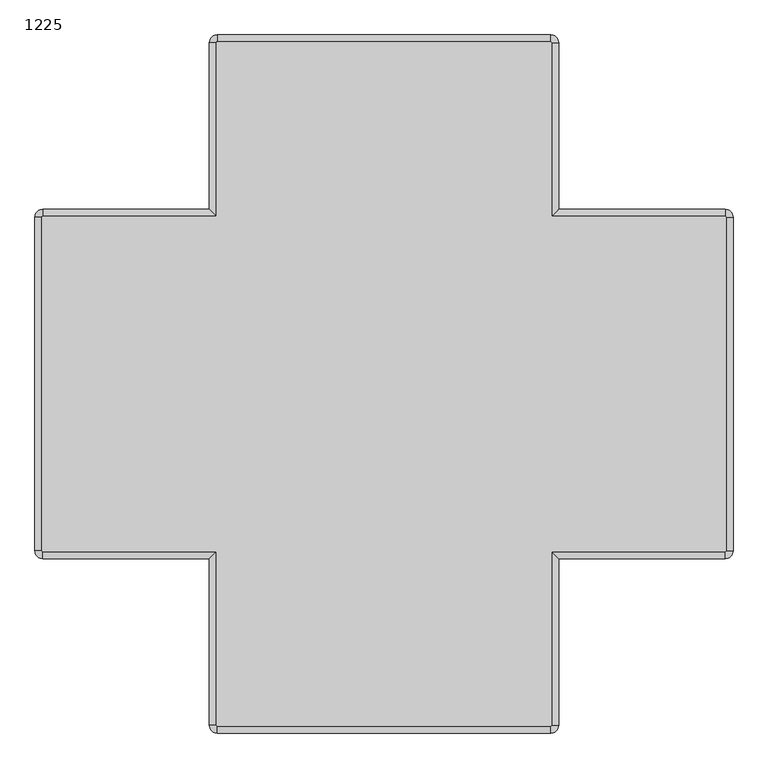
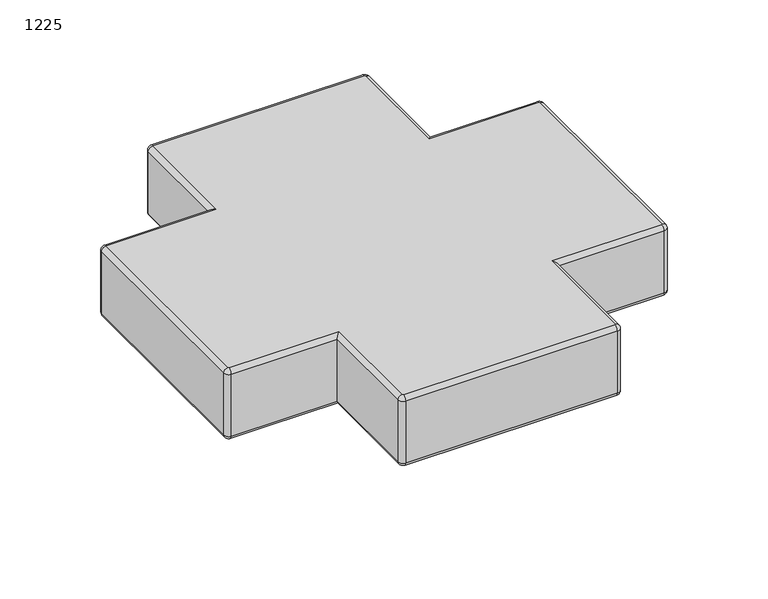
"""IFC4 building model written with IfcOpenShell, lengths in millimetres: furniture geometry, Laguna-Quattro_Backless-ERG : 1225."""

from ifc_helpers import new_model, si_unit, point, frame, origin, place, context, project, spatial, circle_curve, ellipse_curve, trimmed, source, transform, mapped, element, save
from ifc_brep_helpers import plane_surface, cylinder_surface, revolved_surface, advanced_brep


def furniture_1225_f7da2884(model_context):
    return source(origin(), model_context, "Body", "AdvancedBrep", [
        advanced_brep(
        [(-3891.49153, 1409.9151303, 220.9396081), (-3854.2241064, 1409.9151303, 228.8610435), (-3807.7377645, 1409.9151303, 10.16), (-3846.6889412, 1409.9151303, 10.16)],
        [
            (0, 1, circle_curve(frame((-3872.8578182, 1409.9151303, 224.9003258), z_axis=(-0.2079116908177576, 0.0, 0.9781476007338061), x_axis=(0.9781476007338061, 0.0, 0.2079116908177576)), 19.05)),
            (1, 0, circle_curve(frame((-3872.8578182, 1409.9151303, 224.9003258), z_axis=(-0.2079116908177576, 0.0, 0.9781476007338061), x_axis=(0.9781476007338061, 0.0, 0.2079116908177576)), 19.05)),
            (1, 2),
            (2, 3, ellipse_curve(frame((-3827.2133529, 1409.9151303, 10.16), z_axis=(0.0, 0.0, 1.0), x_axis=(0.9999999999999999, 0.0, 0.0)), 19.4755883, 19.05)),
            (3, 0),
            (3, 2, ellipse_curve(frame((-3827.2133529, 1409.9151303, 10.16), z_axis=(0.0, 0.0, 1.0), x_axis=(0.9999999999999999, 0.0, 0.0)), 19.4755883, 19.05)),
        ],
        [
            plane_surface(frame((-3872.8578182, 1409.9151303, 224.9003258), z_axis=(-0.2079116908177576, 0.0, 0.9781476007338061), x_axis=(0.0, 1.0, 0.0))),
            cylinder_surface(frame((-3818.7280095, 1409.9151303, -29.760402), z_axis=(0.2079116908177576, 0.0, -0.9781476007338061), x_axis=(0.9781476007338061, 0.0, 0.2079116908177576)), 19.05),
            plane_surface(frame((-4962.2879997, 1591.847031, 10.16), z_axis=(0.0, 0.0, -1.0), x_axis=(-1.0, 0.0, 0.0))),
        ],
        [
            (0, [[1, 2]]),
            (1, [[-2, 3, 4, 5]]),
            (1, [[-1, -5, 6, -3]]),
            (2, [[-4, -6]]),
        ],
    ),
        advanced_brep(
        [(-3804.2053779, 1445.4751303, 419.1), (-3819.4453779, 1460.7151303, 419.1), (-3819.4453779, 1448.0151303, 431.8), (-3816.9053779, 1445.4751303, 431.8), (-3804.2053779, 1445.4751303, 215.9), (-3819.4453779, 1460.7151303, 215.9), (-3816.9053779, 1445.4751303, 203.2), (-3819.4453779, 1448.0151303, 203.2), (-3816.9053779, 1105.1151303, 431.8), (-3804.2053779, 1117.8151303, 419.1), (-3804.2053779, 1117.8151303, 215.9), (-3816.9053779, 1105.1151303, 203.2), (-3476.5453779, 1105.1151303, 431.8), (-3476.5453779, 1117.8151303, 419.1), (-3476.5453779, 1117.8151303, 215.9), (-3476.5453779, 1105.1151303, 203.2), (-3474.0053779, 1102.5751303, 431.8), (-3461.3053779, 1102.5751303, 419.1), (-3461.3053779, 1102.5751303, 215.9), (-3474.0053779, 1102.5751303, 203.2), (-3474.0053779, 447.2551303, 431.8), (-3461.3053779, 447.2551303, 419.1), (-3461.3053779, 447.2551303, 215.9), (-3474.0053779, 447.2551303, 203.2), (-3476.5453779, 444.7151303, 431.8), (-3476.5453779, 432.0151303, 419.1), (-3476.5453779, 432.0151303, 215.9), (-3476.5453779, 444.7151303, 203.2), (-3816.9053779, 444.7151303, 431.8), (-3804.2053779, 432.0151303, 419.1), (-3804.2053779, 432.0151303, 215.9), (-3816.9053779, 444.7151303, 203.2), (-3816.9053779, 104.3551303, 431.8), (-3804.2053779, 104.3551303, 419.1), (-3804.2053779, 104.3551303, 215.9), (-3816.9053779, 104.3551303, 203.2), (-3819.4453779, 101.8151303, 431.8), (-3819.4453779, 89.1151303, 419.1), (-3819.4453779, 89.1151303, 215.9), (-3819.4453779, 101.8151303, 203.2), (-4474.7653779, 101.8151303, 431.8), (-4474.7653779, 89.1151303, 419.1), (-4474.7653779, 89.1151303, 215.9), (-4474.7653779, 101.8151303, 203.2), (-4477.3053779, 104.3551303, 431.8), (-4490.0053779, 104.3551303, 419.1), (-4490.0053779, 104.3551303, 215.9), (-4477.3053779, 104.3551303, 203.2), (-4477.3053779, 444.7151303, 431.8), (-4490.0053779, 432.0151303, 419.1), (-4490.0053779, 432.0151303, 215.9), (-4477.3053779, 444.7151303, 203.2), (-4817.6653779, 444.7151303, 431.8), (-4817.6653779, 432.0151303, 419.1), (-4817.6653779, 432.0151303, 215.9), (-4817.6653779, 444.7151303, 203.2), (-4820.2053779, 447.2551303, 431.8), (-4832.9053779, 447.2551303, 419.1), (-4832.9053779, 447.2551303, 215.9), (-4820.2053779, 447.2551303, 203.2), (-4820.2053779, 1102.5751303, 431.8), (-4832.9053779, 1102.5751303, 419.1), (-4832.9053779, 1102.5751303, 215.9), (-4820.2053779, 1102.5751303, 203.2), (-4817.6653779, 1105.1151303, 431.8), (-4817.6653779, 1117.8151303, 419.1), (-4817.6653779, 1117.8151303, 215.9), (-4817.6653779, 1105.1151303, 203.2), (-4477.3053779, 1105.1151303, 431.8), (-4490.0053779, 1117.8151303, 419.1), (-4490.0053779, 1117.8151303, 215.9), (-4477.3053779, 1105.1151303, 203.2), (-4477.3053779, 1445.4751303, 431.8), (-4490.0053779, 1445.4751303, 419.1), (-4490.0053779, 1445.4751303, 215.9), (-4477.3053779, 1445.4751303, 203.2), (-4474.7653779, 1448.0151303, 431.8), (-4474.7653779, 1460.7151303, 419.1), (-4474.7653779, 1460.7151303, 215.9), (-4474.7653779, 1448.0151303, 203.2)],
        [
            (0, 1, circle_curve(frame((-3819.4453779, 1445.4751303, 419.1), z_axis=(0.0, 0.0, 1.0), x_axis=(0.0, 1.0, 0.0)), 15.24)),
            (1, 2, circle_curve(frame((-3819.4453779, 1448.0151303, 419.1), z_axis=(1.0, 0.0, 0.0), x_axis=(0.0, 1.0, 0.0)), 12.7)),
            (2, 3, circle_curve(frame((-3819.4453779, 1445.4751303, 431.8), z_axis=(0.0, 0.0, -1.0), x_axis=(0.0, 1.0, 0.0)), 2.54)),
            (3, 0, circle_curve(frame((-3816.9053779, 1445.4751303, 419.1), z_axis=(0.0, 1.0, 0.0), x_axis=(1.0, 0.0, 0.0)), 12.7)),
            (0, 4),
            (4, 5, circle_curve(frame((-3819.4453779, 1445.4751303, 215.9), z_axis=(0.0, 0.0, 1.0), x_axis=(0.0, 1.0, 0.0)), 15.24)),
            (5, 1),
            (4, 6, circle_curve(frame((-3816.9053779, 1445.4751303, 215.9), z_axis=(0.0, 1.0, 0.0), x_axis=(1.0, 0.0, 0.0)), 12.7)),
            (6, 7, circle_curve(frame((-3819.4453779, 1445.4751303, 203.2), z_axis=(0.0, 0.0, 1.0), x_axis=(0.0, 1.0, 0.0)), 2.54)),
            (7, 5, circle_curve(frame((-3819.4453779, 1448.0151303, 215.9), z_axis=(1.0, 0.0, 0.0), x_axis=(0.0, 1.0, 0.0)), 12.7)),
            (3, 8),
            (8, 9, ellipse_curve(frame((-3816.9053779, 1105.1151303, 419.1), z_axis=(-0.7071067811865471, 0.7071067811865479, 0.0), x_axis=(0.7071067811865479, 0.7071067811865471, 0.0)), 17.9605122, 12.7)),
            (9, 0),
            (9, 10),
            (10, 4),
            (10, 11, ellipse_curve(frame((-3816.9053779, 1105.1151303, 215.9), z_axis=(-0.7071067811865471, 0.7071067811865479, 0.0), x_axis=(0.7071067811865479, 0.7071067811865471, 0.0)), 17.9605122, 12.7)),
            (11, 6),
            (8, 12),
            (12, 13, circle_curve(frame((-3476.5453779, 1105.1151303, 419.1), z_axis=(-1.0, 0.0, 0.0), x_axis=(0.0, 1.0, 0.0)), 12.7)),
            (13, 9),
            (13, 14),
            (14, 10),
            (14, 15, circle_curve(frame((-3476.5453779, 1105.1151303, 215.9), z_axis=(-1.0, 0.0, 0.0), x_axis=(0.0, 1.0, 0.0)), 12.7)),
            (15, 11),
            (12, 16, circle_curve(frame((-3476.5453779, 1102.5751303, 431.8), z_axis=(0.0, 0.0, -1.0), x_axis=(0.0, 1.0, 0.0)), 2.54)),
            (16, 17, circle_curve(frame((-3474.0053779, 1102.5751303, 419.1), z_axis=(0.0, 1.0, 0.0), x_axis=(1.0, 0.0, 0.0)), 12.7)),
            (17, 13, circle_curve(frame((-3476.5453779, 1102.5751303, 419.1), z_axis=(0.0, 0.0, 1.0), x_axis=(0.0, 1.0, 0.0)), 15.24)),
            (17, 18),
            (18, 14, circle_curve(frame((-3476.5453779, 1102.5751303, 215.9), z_axis=(0.0, 0.0, 1.0), x_axis=(0.0, 1.0, 0.0)), 15.24)),
            (18, 19, circle_curve(frame((-3474.0053779, 1102.5751303, 215.9), z_axis=(0.0, 1.0, 0.0), x_axis=(1.0, 0.0, 0.0)), 12.7)),
            (19, 15, circle_curve(frame((-3476.5453779, 1102.5751303, 203.2), z_axis=(0.0, 0.0, 1.0), x_axis=(0.0, 1.0, 0.0)), 2.54)),
            (16, 20),
            (20, 21, circle_curve(frame((-3474.0053779, 447.2551303, 419.1), z_axis=(0.0, 1.0, 0.0), x_axis=(1.0, 0.0, 0.0)), 12.7)),
            (21, 17),
            (21, 22),
            (22, 18),
            (22, 23, circle_curve(frame((-3474.0053779, 447.2551303, 215.9), z_axis=(0.0, 1.0, 0.0), x_axis=(1.0, 0.0, 0.0)), 12.7)),
            (23, 19),
            (20, 24, circle_curve(frame((-3476.5453779, 447.2551303, 431.8), z_axis=(0.0, 0.0, -1.0), x_axis=(1.0, 0.0, 0.0)), 2.54)),
            (24, 25, circle_curve(frame((-3476.5453779, 444.7151303, 419.1), z_axis=(1.0, 0.0, 0.0), x_axis=(0.0, -1.0, 0.0)), 12.7)),
            (25, 21, circle_curve(frame((-3476.5453779, 447.2551303, 419.1), z_axis=(0.0, 0.0, 1.0), x_axis=(1.0, 0.0, 0.0)), 15.24)),
            (25, 26),
            (26, 22, circle_curve(frame((-3476.5453779, 447.2551303, 215.9), z_axis=(0.0, 0.0, 1.0), x_axis=(1.0, 0.0, 0.0)), 15.24)),
            (26, 27, circle_curve(frame((-3476.5453779, 444.7151303, 215.9), z_axis=(1.0, 0.0, 0.0), x_axis=(0.0, -1.0, 0.0)), 12.7)),
            (27, 23, circle_curve(frame((-3476.5453779, 447.2551303, 203.2), z_axis=(0.0, 0.0, 1.0), x_axis=(1.0, 0.0, 0.0)), 2.54)),
            (24, 28),
            (28, 29, ellipse_curve(frame((-3816.9053779, 444.7151303, 419.1), z_axis=(0.7071067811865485, 0.7071067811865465, 0.0), x_axis=(0.7071067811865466, -0.7071067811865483, 0.0)), 17.9605122, 12.7)),
            (29, 25),
            (29, 30),
            (30, 26),
            (30, 31, ellipse_curve(frame((-3816.9053779, 444.7151303, 215.9), z_axis=(0.7071067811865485, 0.7071067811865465, 0.0), x_axis=(0.7071067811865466, -0.7071067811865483, 0.0)), 17.9605122, 12.7)),
            (31, 27),
            (28, 32),
            (32, 33, circle_curve(frame((-3816.9053779, 104.3551303, 419.1), z_axis=(0.0, 1.0, 0.0), x_axis=(1.0, 0.0, 0.0)), 12.7)),
            (33, 29),
            (33, 34),
            (34, 30),
            (34, 35, circle_curve(frame((-3816.9053779, 104.3551303, 215.9), z_axis=(0.0, 1.0, 0.0), x_axis=(1.0, 0.0, 0.0)), 12.7)),
            (35, 31),
            (32, 36, circle_curve(frame((-3819.4453779, 104.3551303, 431.8), z_axis=(0.0, 0.0, -1.0), x_axis=(1.0, 0.0, 0.0)), 2.54)),
            (36, 37, circle_curve(frame((-3819.4453779, 101.8151303, 419.1), z_axis=(1.0, 0.0, 0.0), x_axis=(0.0, -1.0, 0.0)), 12.7)),
            (37, 33, circle_curve(frame((-3819.4453779, 104.3551303, 419.1), z_axis=(0.0, 0.0, 1.0), x_axis=(1.0, 0.0, 0.0)), 15.24)),
            (37, 38),
            (38, 34, circle_curve(frame((-3819.4453779, 104.3551303, 215.9), z_axis=(0.0, 0.0, 1.0), x_axis=(1.0, 0.0, 0.0)), 15.24)),
            (38, 39, circle_curve(frame((-3819.4453779, 101.8151303, 215.9), z_axis=(1.0, 0.0, 0.0), x_axis=(0.0, -1.0, 0.0)), 12.7)),
            (39, 35, circle_curve(frame((-3819.4453779, 104.3551303, 203.2), z_axis=(0.0, 0.0, 1.0), x_axis=(1.0, 0.0, 0.0)), 2.54)),
            (36, 40),
            (40, 41, circle_curve(frame((-4474.7653779, 101.8151303, 419.1), z_axis=(1.0, 0.0, 0.0), x_axis=(0.0, -1.0, 0.0)), 12.7)),
            (41, 37),
            (41, 42),
            (42, 38),
            (42, 43, circle_curve(frame((-4474.7653779, 101.8151303, 215.9), z_axis=(1.0, 0.0, 0.0), x_axis=(0.0, -1.0, 0.0)), 12.7)),
            (43, 39),
            (40, 44, circle_curve(frame((-4474.7653779, 104.3551303, 431.8), z_axis=(0.0, 0.0, -1.0), x_axis=(0.0, -1.0, 0.0)), 2.54)),
            (44, 45, circle_curve(frame((-4477.3053779, 104.3551303, 419.1), z_axis=(0.0, -1.0, 0.0), x_axis=(-1.0, 0.0, 0.0)), 12.7)),
            (45, 41, circle_curve(frame((-4474.7653779, 104.3551303, 419.1), z_axis=(0.0, 0.0, 1.0), x_axis=(0.0, -1.0, 0.0)), 15.24)),
            (45, 46),
            (46, 42, circle_curve(frame((-4474.7653779, 104.3551303, 215.9), z_axis=(0.0, 0.0, 1.0), x_axis=(0.0, -1.0, 0.0)), 15.24)),
            (46, 47, circle_curve(frame((-4477.3053779, 104.3551303, 215.9), z_axis=(0.0, -1.0, 0.0), x_axis=(-1.0, 0.0, 0.0)), 12.7)),
            (47, 43, circle_curve(frame((-4474.7653779, 104.3551303, 203.2), z_axis=(0.0, 0.0, 1.0), x_axis=(0.0, -1.0, 0.0)), 2.54)),
            (44, 48),
            (48, 49, ellipse_curve(frame((-4477.3053779, 444.7151303, 419.1), z_axis=(0.7071067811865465, -0.7071067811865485, 0.0), x_axis=(-0.7071067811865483, -0.7071067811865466, 0.0)), 17.9605122, 12.7)),
            (49, 45),
            (49, 50),
            (50, 46),
            (50, 51, ellipse_curve(frame((-4477.3053779, 444.7151303, 215.9), z_axis=(0.7071067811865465, -0.7071067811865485, 0.0), x_axis=(-0.7071067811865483, -0.7071067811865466, 0.0)), 17.9605122, 12.7)),
            (51, 47),
            (48, 52),
            (52, 53, circle_curve(frame((-4817.6653779, 444.7151303, 419.1), z_axis=(1.0, 0.0, 0.0), x_axis=(0.0, -1.0, 0.0)), 12.7)),
            (53, 49),
            (53, 54),
            (54, 50),
            (54, 55, circle_curve(frame((-4817.6653779, 444.7151303, 215.9), z_axis=(1.0, 0.0, 0.0), x_axis=(0.0, -1.0, 0.0)), 12.7)),
            (55, 51),
            (52, 56, circle_curve(frame((-4817.6653779, 447.2551303, 431.8), z_axis=(0.0, 0.0, -1.0), x_axis=(0.0, -1.0, 0.0)), 2.54)),
            (56, 57, circle_curve(frame((-4820.2053779, 447.2551303, 419.1), z_axis=(0.0, -1.0, 0.0), x_axis=(-1.0, 0.0, 0.0)), 12.7)),
            (57, 53, circle_curve(frame((-4817.6653779, 447.2551303, 419.1), z_axis=(0.0, 0.0, 1.0), x_axis=(0.0, -1.0, 0.0)), 15.24)),
            (57, 58),
            (58, 54, circle_curve(frame((-4817.6653779, 447.2551303, 215.9), z_axis=(0.0, 0.0, 1.0), x_axis=(0.0, -1.0, 0.0)), 15.24)),
            (58, 59, circle_curve(frame((-4820.2053779, 447.2551303, 215.9), z_axis=(0.0, -1.0, 0.0), x_axis=(-1.0, 0.0, 0.0)), 12.7)),
            (59, 55, circle_curve(frame((-4817.6653779, 447.2551303, 203.2), z_axis=(0.0, 0.0, 1.0), x_axis=(0.0, -1.0, 0.0)), 2.54)),
            (56, 60),
            (60, 61, circle_curve(frame((-4820.2053779, 1102.5751303, 419.1), z_axis=(0.0, -1.0, 0.0), x_axis=(-1.0, 0.0, 0.0)), 12.7)),
            (61, 57),
            (61, 62),
            (62, 58),
            (62, 63, circle_curve(frame((-4820.2053779, 1102.5751303, 215.9), z_axis=(0.0, -1.0, 0.0), x_axis=(-1.0, 0.0, 0.0)), 12.7)),
            (63, 59),
            (60, 64, circle_curve(frame((-4817.6653779, 1102.5751303, 431.8), z_axis=(0.0, 0.0, -1.0), x_axis=(-1.0, 0.0, 0.0)), 2.54)),
            (64, 65, circle_curve(frame((-4817.6653779, 1105.1151303, 419.1), z_axis=(-1.0, 0.0, 0.0), x_axis=(0.0, 1.0, 0.0)), 12.7)),
            (65, 61, circle_curve(frame((-4817.6653779, 1102.5751303, 419.1), z_axis=(0.0, 0.0, 1.0), x_axis=(-1.0, 0.0, 0.0)), 15.24)),
            (65, 66),
            (66, 62, circle_curve(frame((-4817.6653779, 1102.5751303, 215.9), z_axis=(0.0, 0.0, 1.0), x_axis=(-1.0, 0.0, 0.0)), 15.24)),
            (66, 67, circle_curve(frame((-4817.6653779, 1105.1151303, 215.9), z_axis=(-1.0, 0.0, 0.0), x_axis=(0.0, 1.0, 0.0)), 12.7)),
            (67, 63, circle_curve(frame((-4817.6653779, 1102.5751303, 203.2), z_axis=(0.0, 0.0, 1.0), x_axis=(-1.0, 0.0, 0.0)), 2.54)),
            (64, 68),
            (68, 69, ellipse_curve(frame((-4477.3053779, 1105.1151303, 419.1), z_axis=(-0.7071067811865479, -0.7071067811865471, 0.0), x_axis=(-0.7071067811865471, 0.7071067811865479, 0.0)), 17.9605122, 12.7)),
            (69, 65),
            (69, 70),
            (70, 66),
            (70, 71, ellipse_curve(frame((-4477.3053779, 1105.1151303, 215.9), z_axis=(-0.7071067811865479, -0.7071067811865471, 0.0), x_axis=(-0.7071067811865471, 0.7071067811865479, 0.0)), 17.9605122, 12.7)),
            (71, 67),
            (68, 72),
            (72, 73, circle_curve(frame((-4477.3053779, 1445.4751303, 419.1), z_axis=(0.0, -1.0, 0.0), x_axis=(-1.0, 0.0, 0.0)), 12.7)),
            (73, 69),
            (73, 74),
            (74, 70),
            (74, 75, circle_curve(frame((-4477.3053779, 1445.4751303, 215.9), z_axis=(0.0, -1.0, 0.0), x_axis=(-1.0, 0.0, 0.0)), 12.7)),
            (75, 71),
            (72, 76, circle_curve(frame((-4474.7653779, 1445.4751303, 431.8), z_axis=(0.0, 0.0, -1.0), x_axis=(-1.0, 0.0, 0.0)), 2.54)),
            (76, 77, circle_curve(frame((-4474.7653779, 1448.0151303, 419.1), z_axis=(-1.0, 0.0, 0.0), x_axis=(0.0, 1.0, 0.0)), 12.7)),
            (77, 73, circle_curve(frame((-4474.7653779, 1445.4751303, 419.1), z_axis=(0.0, 0.0, 1.0), x_axis=(-1.0, 0.0, 0.0)), 15.24)),
            (77, 78),
            (78, 74, circle_curve(frame((-4474.7653779, 1445.4751303, 215.9), z_axis=(0.0, 0.0, 1.0), x_axis=(-1.0, 0.0, 0.0)), 15.24)),
            (78, 79, circle_curve(frame((-4474.7653779, 1448.0151303, 215.9), z_axis=(-1.0, 0.0, 0.0), x_axis=(0.0, 1.0, 0.0)), 12.7)),
            (79, 75, circle_curve(frame((-4474.7653779, 1445.4751303, 203.2), z_axis=(0.0, 0.0, 1.0), x_axis=(-1.0, 0.0, 0.0)), 2.54)),
            (1, 77),
            (76, 2),
            (5, 78),
            (7, 79),
        ],
        [
            revolved_surface(trimmed(ellipse_curve(frame((-3819.4453779, 1448.0151303, 419.1), z_axis=(-1.0, 0.0, 0.0), x_axis=(0.0, 1.0, 0.0)), 12.7, 12.7), [point((-3819.4453779, 1448.0151303, 431.8))], [point((-3819.4453779, 1460.7151303, 419.1))], True, "CARTESIAN"), (-3819.4453779, 1445.4751303, 0.0), (0.0, 0.0, -1.0)),
            cylinder_surface(frame((-3819.4453779, 1445.4751303, 0.0), z_axis=(0.0, 0.0, -1.0), x_axis=(0.0, 1.0, 0.0)), 15.24),
            revolved_surface(trimmed(ellipse_curve(frame((-3819.4453779, 1448.0151303, 215.9), z_axis=(-1.0, 0.0, 0.0), x_axis=(0.0, 1.0, 0.0)), 12.7, 12.7), [point((-3819.4453779, 1460.7151303, 215.9))], [point((-3819.4453779, 1448.0151303, 203.2))], True, "CARTESIAN"), (-3819.4453779, 1445.4751303, 0.0), (0.0, 0.0, -1.0)),
            cylinder_surface(frame((-3816.9053779, 1445.4751303, 419.1), z_axis=(0.0, 1.0, 0.0), x_axis=(1.0, 0.0, 0.0)), 12.7),
            plane_surface(frame((-3804.2053779, 1445.4751303, 419.1), z_axis=(1.0, 0.0, 0.0), x_axis=(0.0, -1.0, 0.0))),
            cylinder_surface(frame((-3816.9053779, 1445.4751303, 215.9), z_axis=(0.0, 1.0, 0.0), x_axis=(1.0, 0.0, 0.0)), 12.7),
            cylinder_surface(frame((-3804.2053779, 1105.1151303, 419.1), z_axis=(-1.0, 0.0, 0.0), x_axis=(0.0, 1.0, 0.0)), 12.7),
            plane_surface(frame((-3804.2053779, 1117.8151303, 419.1), z_axis=(0.0, 1.0, 0.0), x_axis=(1.0, 0.0, 0.0))),
            cylinder_surface(frame((-3804.2053779, 1105.1151303, 215.9), z_axis=(-1.0, 0.0, 0.0), x_axis=(0.0, 1.0, 0.0)), 12.7),
            revolved_surface(trimmed(ellipse_curve(frame((-3476.5453779, 1105.1151303, 419.1), z_axis=(-1.0, 0.0, 0.0), x_axis=(0.0, 1.0, 0.0)), 12.7, 12.7), [point((-3476.5453779, 1105.1151303, 431.8))], [point((-3476.5453779, 1117.8151303, 419.1))], True, "CARTESIAN"), (-3476.5453779, 1102.5751303, 0.0), (0.0, 0.0, -1.0)),
            cylinder_surface(frame((-3476.5453779, 1102.5751303, 0.0), z_axis=(0.0, 0.0, -1.0), x_axis=(0.0, 1.0, 0.0)), 15.24),
            revolved_surface(trimmed(ellipse_curve(frame((-3476.5453779, 1105.1151303, 215.9), z_axis=(-1.0, 0.0, 0.0), x_axis=(0.0, 1.0, 0.0)), 12.7, 12.7), [point((-3476.5453779, 1117.8151303, 215.9))], [point((-3476.5453779, 1105.1151303, 203.2))], True, "CARTESIAN"), (-3476.5453779, 1102.5751303, 0.0), (0.0, 0.0, -1.0)),
            cylinder_surface(frame((-3474.0053779, 1102.5751303, 419.1), z_axis=(0.0, 1.0, 0.0), x_axis=(1.0, 0.0, 0.0)), 12.7),
            plane_surface(frame((-3461.3053779, 1102.5751303, 419.1), z_axis=(1.0, 0.0, 0.0), x_axis=(0.0, -1.0, 0.0))),
            cylinder_surface(frame((-3474.0053779, 1102.5751303, 215.9), z_axis=(0.0, 1.0, 0.0), x_axis=(1.0, 0.0, 0.0)), 12.7),
            revolved_surface(trimmed(ellipse_curve(frame((-3474.0053779, 447.2551303, 419.1), z_axis=(0.0, 1.0, 0.0), x_axis=(1.0, 0.0, 0.0)), 12.7, 12.7), [point((-3474.0053779, 447.2551303, 431.8))], [point((-3461.3053779, 447.2551303, 419.1))], True, "CARTESIAN"), (-3476.5453779, 447.2551303, 0.0), (0.0, 0.0, -1.0)),
            cylinder_surface(frame((-3476.5453779, 447.2551303, 0.0), z_axis=(0.0, 0.0, -1.0), x_axis=(1.0, 0.0, 0.0)), 15.24),
            revolved_surface(trimmed(ellipse_curve(frame((-3474.0053779, 447.2551303, 215.9), z_axis=(0.0, 1.0, 0.0), x_axis=(1.0, 0.0, 0.0)), 12.7, 12.7), [point((-3461.3053779, 447.2551303, 215.9))], [point((-3474.0053779, 447.2551303, 203.2))], True, "CARTESIAN"), (-3476.5453779, 447.2551303, 0.0), (0.0, 0.0, -1.0)),
            cylinder_surface(frame((-3476.5453779, 444.7151303, 419.1), z_axis=(1.0, 0.0, 0.0), x_axis=(0.0, -1.0, 0.0)), 12.7),
            plane_surface(frame((-3476.5453779, 432.0151303, 419.1), z_axis=(0.0, -1.0, 0.0), x_axis=(-1.0, 0.0, 0.0))),
            cylinder_surface(frame((-3476.5453779, 444.7151303, 215.9), z_axis=(1.0, 0.0, 0.0), x_axis=(0.0, -1.0, 0.0)), 12.7),
            cylinder_surface(frame((-3816.9053779, 432.0151303, 419.1), z_axis=(0.0, 1.0, 0.0), x_axis=(1.0, 0.0, 0.0)), 12.7),
            plane_surface(frame((-3804.2053779, 432.0151303, 419.1), z_axis=(1.0, 0.0, 0.0), x_axis=(0.0, -1.0, 0.0))),
            cylinder_surface(frame((-3816.9053779, 432.0151303, 215.9), z_axis=(0.0, 1.0, 0.0), x_axis=(1.0, 0.0, 0.0)), 12.7),
            revolved_surface(trimmed(ellipse_curve(frame((-3816.9053779, 104.3551303, 419.1), z_axis=(0.0, 1.0, 0.0), x_axis=(1.0, 0.0, 0.0)), 12.7, 12.7), [point((-3816.9053779, 104.3551303, 431.8))], [point((-3804.2053779, 104.3551303, 419.1))], True, "CARTESIAN"), (-3819.4453779, 104.3551303, 0.0), (0.0, 0.0, -1.0)),
            cylinder_surface(frame((-3819.4453779, 104.3551303, 0.0), z_axis=(0.0, 0.0, -1.0), x_axis=(1.0, 0.0, 0.0)), 15.24),
            revolved_surface(trimmed(ellipse_curve(frame((-3816.9053779, 104.3551303, 215.9), z_axis=(0.0, 1.0, 0.0), x_axis=(1.0, 0.0, 0.0)), 12.7, 12.7), [point((-3804.2053779, 104.3551303, 215.9))], [point((-3816.9053779, 104.3551303, 203.2))], True, "CARTESIAN"), (-3819.4453779, 104.3551303, 0.0), (0.0, 0.0, -1.0)),
            cylinder_surface(frame((-3819.4453779, 101.8151303, 419.1), z_axis=(1.0, 0.0, 0.0), x_axis=(0.0, -1.0, 0.0)), 12.7),
            plane_surface(frame((-3819.4453779, 89.1151303, 419.1), z_axis=(0.0, -1.0, 0.0), x_axis=(-1.0, 0.0, 0.0))),
            cylinder_surface(frame((-3819.4453779, 101.8151303, 215.9), z_axis=(1.0, 0.0, 0.0), x_axis=(0.0, -1.0, 0.0)), 12.7),
            revolved_surface(trimmed(ellipse_curve(frame((-4474.7653779, 101.8151303, 419.1), z_axis=(1.0, 0.0, 0.0), x_axis=(0.0, -1.0, 0.0)), 12.7, 12.7), [point((-4474.7653779, 101.8151303, 431.8))], [point((-4474.7653779, 89.1151303, 419.1))], True, "CARTESIAN"), (-4474.7653779, 104.3551303, 0.0), (0.0, 0.0, -1.0)),
            cylinder_surface(frame((-4474.7653779, 104.3551303, 0.0), z_axis=(0.0, 0.0, -1.0), x_axis=(0.0, -1.0, 0.0)), 15.24),
            revolved_surface(trimmed(ellipse_curve(frame((-4474.7653779, 101.8151303, 215.9), z_axis=(1.0, 0.0, 0.0), x_axis=(0.0, -1.0, 0.0)), 12.7, 12.7), [point((-4474.7653779, 89.1151303, 215.9))], [point((-4474.7653779, 101.8151303, 203.2))], True, "CARTESIAN"), (-4474.7653779, 104.3551303, 0.0), (0.0, 0.0, -1.0)),
            cylinder_surface(frame((-4477.3053779, 104.3551303, 419.1), z_axis=(0.0, -1.0, 0.0), x_axis=(-1.0, 0.0, 0.0)), 12.7),
            plane_surface(frame((-4490.0053779, 104.3551303, 419.1), z_axis=(-1.0, 0.0, 0.0), x_axis=(0.0, 1.0, 0.0))),
            cylinder_surface(frame((-4477.3053779, 104.3551303, 215.9), z_axis=(0.0, -1.0, 0.0), x_axis=(-1.0, 0.0, 0.0)), 12.7),
            cylinder_surface(frame((-4490.0053779, 444.7151303, 419.1), z_axis=(1.0, 0.0, 0.0), x_axis=(0.0, -1.0, 0.0)), 12.7),
            plane_surface(frame((-4490.0053779, 432.0151303, 419.1), z_axis=(0.0, -1.0, 0.0), x_axis=(-1.0, 0.0, 0.0))),
            cylinder_surface(frame((-4490.0053779, 444.7151303, 215.9), z_axis=(1.0, 0.0, 0.0), x_axis=(0.0, -1.0, 0.0)), 12.7),
            revolved_surface(trimmed(ellipse_curve(frame((-4817.6653779, 444.7151303, 419.1), z_axis=(1.0, 0.0, 0.0), x_axis=(0.0, -1.0, 0.0)), 12.7, 12.7), [point((-4817.6653779, 444.7151303, 431.8))], [point((-4817.6653779, 432.0151303, 419.1))], True, "CARTESIAN"), (-4817.6653779, 447.2551303, 0.0), (0.0, 0.0, -1.0)),
            cylinder_surface(frame((-4817.6653779, 447.2551303, 0.0), z_axis=(0.0, 0.0, -1.0), x_axis=(0.0, -1.0, 0.0)), 15.24),
            revolved_surface(trimmed(ellipse_curve(frame((-4817.6653779, 444.7151303, 215.9), z_axis=(1.0, 0.0, 0.0), x_axis=(0.0, -1.0, 0.0)), 12.7, 12.7), [point((-4817.6653779, 432.0151303, 215.9))], [point((-4817.6653779, 444.7151303, 203.2))], True, "CARTESIAN"), (-4817.6653779, 447.2551303, 0.0), (0.0, 0.0, -1.0)),
            cylinder_surface(frame((-4820.2053779, 447.2551303, 419.1), z_axis=(0.0, -1.0, 0.0), x_axis=(-1.0, 0.0, 0.0)), 12.7),
            plane_surface(frame((-4832.9053779, 447.2551303, 419.1), z_axis=(-1.0, 0.0, 0.0), x_axis=(0.0, 1.0, 0.0))),
            cylinder_surface(frame((-4820.2053779, 447.2551303, 215.9), z_axis=(0.0, -1.0, 0.0), x_axis=(-1.0, 0.0, 0.0)), 12.7),
            revolved_surface(trimmed(ellipse_curve(frame((-4820.2053779, 1102.5751303, 419.1), z_axis=(0.0, -1.0, 0.0), x_axis=(-1.0, 0.0, 0.0)), 12.7, 12.7), [point((-4820.2053779, 1102.5751303, 431.8))], [point((-4832.9053779, 1102.5751303, 419.1))], True, "CARTESIAN"), (-4817.6653779, 1102.5751303, 0.0), (0.0, 0.0, -1.0)),
            cylinder_surface(frame((-4817.6653779, 1102.5751303, 0.0), z_axis=(0.0, 0.0, -1.0), x_axis=(-1.0, 0.0, 0.0)), 15.24),
            revolved_surface(trimmed(ellipse_curve(frame((-4820.2053779, 1102.5751303, 215.9), z_axis=(0.0, -1.0, 0.0), x_axis=(-1.0, 0.0, 0.0)), 12.7, 12.7), [point((-4832.9053779, 1102.5751303, 215.9))], [point((-4820.2053779, 1102.5751303, 203.2))], True, "CARTESIAN"), (-4817.6653779, 1102.5751303, 0.0), (0.0, 0.0, -1.0)),
            cylinder_surface(frame((-4817.6653779, 1105.1151303, 419.1), z_axis=(-1.0, 0.0, 0.0), x_axis=(0.0, 1.0, 0.0)), 12.7),
            plane_surface(frame((-4817.6653779, 1117.8151303, 419.1), z_axis=(0.0, 1.0, 0.0), x_axis=(1.0, 0.0, 0.0))),
            cylinder_surface(frame((-4817.6653779, 1105.1151303, 215.9), z_axis=(-1.0, 0.0, 0.0), x_axis=(0.0, 1.0, 0.0)), 12.7),
            cylinder_surface(frame((-4477.3053779, 1117.8151303, 419.1), z_axis=(0.0, -1.0, 0.0), x_axis=(-1.0, 0.0, 0.0)), 12.7),
            plane_surface(frame((-4490.0053779, 1117.8151303, 419.1), z_axis=(-1.0, 0.0, 0.0), x_axis=(0.0, 1.0, 0.0))),
            cylinder_surface(frame((-4477.3053779, 1117.8151303, 215.9), z_axis=(0.0, -1.0, 0.0), x_axis=(-1.0, 0.0, 0.0)), 12.7),
            revolved_surface(trimmed(ellipse_curve(frame((-4477.3053779, 1445.4751303, 419.1), z_axis=(0.0, -1.0, 0.0), x_axis=(-1.0, 0.0, 0.0)), 12.7, 12.7), [point((-4477.3053779, 1445.4751303, 431.8))], [point((-4490.0053779, 1445.4751303, 419.1))], True, "CARTESIAN"), (-4474.7653779, 1445.4751303, 0.0), (0.0, 0.0, -1.0)),
            cylinder_surface(frame((-4474.7653779, 1445.4751303, 0.0), z_axis=(0.0, 0.0, -1.0), x_axis=(-1.0, 0.0, 0.0)), 15.24),
            revolved_surface(trimmed(ellipse_curve(frame((-4477.3053779, 1445.4751303, 215.9), z_axis=(0.0, -1.0, 0.0), x_axis=(-1.0, 0.0, 0.0)), 12.7, 12.7), [point((-4490.0053779, 1445.4751303, 215.9))], [point((-4477.3053779, 1445.4751303, 203.2))], True, "CARTESIAN"), (-4474.7653779, 1445.4751303, 0.0), (0.0, 0.0, -1.0)),
            cylinder_surface(frame((-4474.7653779, 1448.0151303, 419.1), z_axis=(-1.0, 0.0, 0.0), x_axis=(0.0, 1.0, 0.0)), 12.7),
            plane_surface(frame((-4474.7653779, 1460.7151303, 419.1), z_axis=(0.0, 1.0, 0.0), x_axis=(1.0, 0.0, 0.0))),
            cylinder_surface(frame((-4474.7653779, 1448.0151303, 215.9), z_axis=(-1.0, 0.0, 0.0), x_axis=(0.0, 1.0, 0.0)), 12.7),
            plane_surface(frame((-4474.7653779, 1448.0151303, 431.8), z_axis=(0.0, 0.0, 1.0), x_axis=(-1.0, 0.0, 0.0))),
            plane_surface(frame((-4474.7653779, 1448.0151303, 203.2), z_axis=(0.0, 0.0, -1.0), x_axis=(1.0, 0.0, 0.0))),
        ],
        [
            (0, [[1, 2, 3, 4]]),
            (1, [[-1, 5, 6, 7]]),
            (2, [[-6, 8, 9, 10]]),
            (3, [[-4, 11, 12, 13]]),
            (4, [[-5, -13, 14, 15]]),
            (5, [[-8, -15, 16, 17]]),
            (6, [[-12, 18, 19, 20]]),
            (7, [[-14, -20, 21, 22]]),
            (8, [[-16, -22, 23, 24]]),
            (9, [[-19, 25, 26, 27]]),
            (10, [[-21, -27, 28, 29]]),
            (11, [[-23, -29, 30, 31]]),
            (12, [[-26, 32, 33, 34]]),
            (13, [[-28, -34, 35, 36]]),
            (14, [[-30, -36, 37, 38]]),
            (15, [[-33, 39, 40, 41]]),
            (16, [[-35, -41, 42, 43]]),
            (17, [[-37, -43, 44, 45]]),
            (18, [[-40, 46, 47, 48]]),
            (19, [[-42, -48, 49, 50]]),
            (20, [[-44, -50, 51, 52]]),
            (21, [[-47, 53, 54, 55]]),
            (22, [[-49, -55, 56, 57]]),
            (23, [[-51, -57, 58, 59]]),
            (24, [[-54, 60, 61, 62]]),
            (25, [[-56, -62, 63, 64]]),
            (26, [[-58, -64, 65, 66]]),
            (27, [[-61, 67, 68, 69]]),
            (28, [[-63, -69, 70, 71]]),
            (29, [[-65, -71, 72, 73]]),
            (30, [[-68, 74, 75, 76]]),
            (31, [[-70, -76, 77, 78]]),
            (32, [[-72, -78, 79, 80]]),
            (33, [[-75, 81, 82, 83]]),
            (34, [[-77, -83, 84, 85]]),
            (35, [[-79, -85, 86, 87]]),
            (36, [[-82, 88, 89, 90]]),
            (37, [[-84, -90, 91, 92]]),
            (38, [[-86, -92, 93, 94]]),
            (39, [[-89, 95, 96, 97]]),
            (40, [[-91, -97, 98, 99]]),
            (41, [[-93, -99, 100, 101]]),
            (42, [[-96, 102, 103, 104]]),
            (43, [[-98, -104, 105, 106]]),
            (44, [[-100, -106, 107, 108]]),
            (45, [[-103, 109, 110, 111]]),
            (46, [[-105, -111, 112, 113]]),
            (47, [[-107, -113, 114, 115]]),
            (48, [[-110, 116, 117, 118]]),
            (49, [[-112, -118, 119, 120]]),
            (50, [[-114, -120, 121, 122]]),
            (51, [[-117, 123, 124, 125]]),
            (52, [[-119, -125, 126, 127]]),
            (53, [[-121, -127, 128, 129]]),
            (54, [[-124, 130, 131, 132]]),
            (55, [[-126, -132, 133, 134]]),
            (56, [[-128, -134, 135, 136]]),
            (57, [[-2, 137, -131, 138]]),
            (58, [[-7, 139, -133, -137]]),
            (59, [[-10, 140, -135, -139]]),
            (60, [[-3, -138, -130, -123, -116, -109, -102, -95, -88, -81, -74, -67, -60, -53, -46, -39, -32, -25, -18, -11]]),
            (61, [[-9, -17, -24, -31, -38, -45, -52, -59, -66, -73, -80, -87, -94, -101, -108, -115, -122, -129, -136, -140]]),
        ],
    ),
    ])


if __name__ == "__main__":
    model = new_model("IFC4")
    model_context = context("Model", 3, world=origin())
    ifc_project = project(units=[si_unit("LENGTHUNIT", "METRE", prefix="MILLI")], contexts=[model_context])
    site = spatial("IfcSite", under=ifc_project)
    building = spatial("IfcBuilding", under=site)
    placement = place(None, origin())
    furniture_1225_shape = furniture_1225_f7da2884(model_context)
    element("IfcFurniture", 1, ObjectType="Laguna-Quattro_Backless-ERG : 1225", at=placement, inside=building, context=model_context, shape_type="MappedRepresentation", body=[
        mapped(furniture_1225_shape, transform((0.0, 0.0, 0.0), x_axis=(1.0, 0.0, 0.0), y_axis=(0.0, 1.0, 0.0), z_axis=(0.0, 0.0, 1.0))),
    ])
    save(model, "model.ifc")
